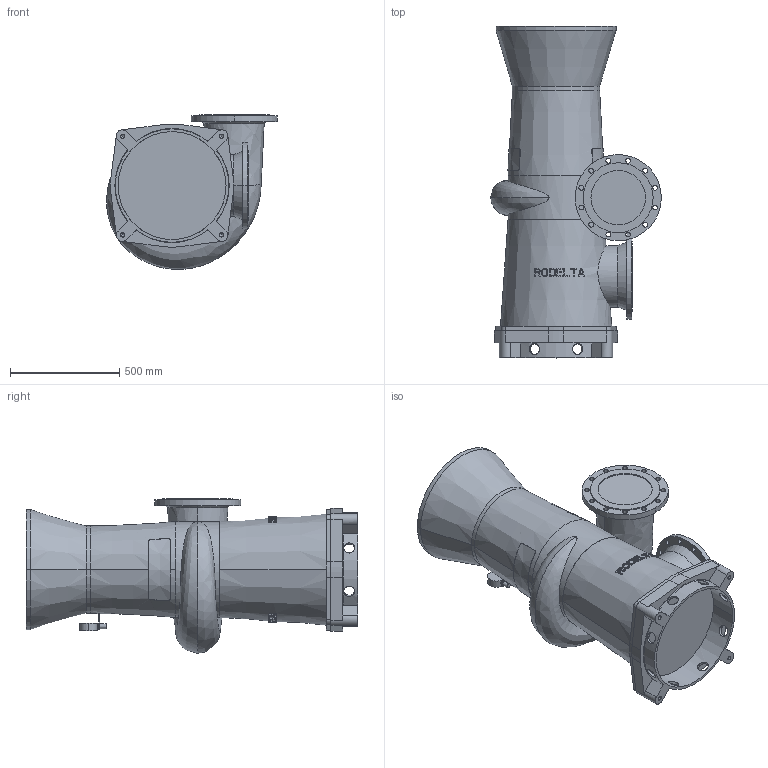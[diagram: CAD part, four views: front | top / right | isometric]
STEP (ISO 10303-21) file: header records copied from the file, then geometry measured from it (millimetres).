
FILE_DESCRIPTION((''),'2;1');
FILE_NAME('8310_VOOR_BLAD_ASM','2024-07-25T',('Lyritlocal'),(''),'PRO/ENGINEER BY PARAMETRIC TECHNOLOGY CORPORATION, 2016360','PRO/ENGINEER BY PARAMETRIC TECHNOLOGY CORPORATION, 2016360','');
FILE_SCHEMA(('CONFIG_CONTROL_DESIGN'));
Length unit declared in the file: millimetre
Products named in the file (3): 8310; 8310_VOET; 8310_VOOR_BLAD_ASM
Assembly tree (2 placements, depth 2):
  8310_VOOR_BLAD_ASM
    8310
    8310_VOET
Bounding box: 782.16 x 1521 x 708.93 mm (x, y, z)
Volume: 290401681.4 mm3; surface area: 4473475.7 mm2
Topology: 2 solids, 6 shells, 545 faces, 1466 edges, 969 vertices
Faces by surface type: plane 342, cylinder 153, cone 40, bspline 6, torus 4
Entity records: 19407 total; most frequent: CARTESIAN_POINT 6110, ORIENTED_EDGE 2900, DIRECTION 2489, EDGE_CURVE 1458, VERTEX_POINT 969, AXIS2_PLACEMENT_3D 967, EDGE_LOOP 661, VECTOR 555
